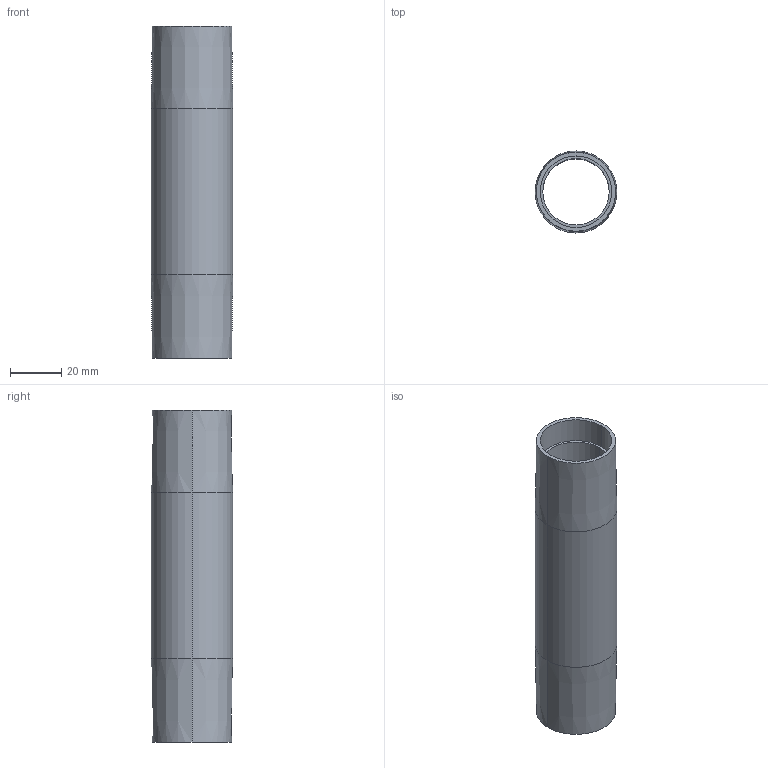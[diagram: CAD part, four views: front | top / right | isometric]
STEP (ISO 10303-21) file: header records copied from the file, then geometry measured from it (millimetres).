
FILE_DESCRIPTION (( 'STEP AP214' ), '1' );
FILE_NAME ('084.030.175.STEP', '2021-02-05T15:46:05', ( '' ), ( '' ), 'SwSTEP 2.0', 'SolidWorks 2018', '' );
FILE_SCHEMA (( 'AUTOMOTIVE_DESIGN' ));
Length unit declared in the file: millimetre
Products named in the file (1): 084.030.175
Bounding box: 32 x 32 x 130 mm (x, y, z)
Volume: 32218.3 mm3; surface area: 24159.6 mm2
Topology: 1 solids, 1 shells, 16 faces, 32 edges, 20 vertices
Faces by surface type: cylinder 8, cone 4, plane 4
Entity records: 462 total; most frequent: DIRECTION 86, CARTESIAN_POINT 69, ORIENTED_EDGE 64, AXIS2_PLACEMENT_3D 37, EDGE_CURVE 32, EDGE_LOOP 20, VERTEX_POINT 20, CIRCLE 20
